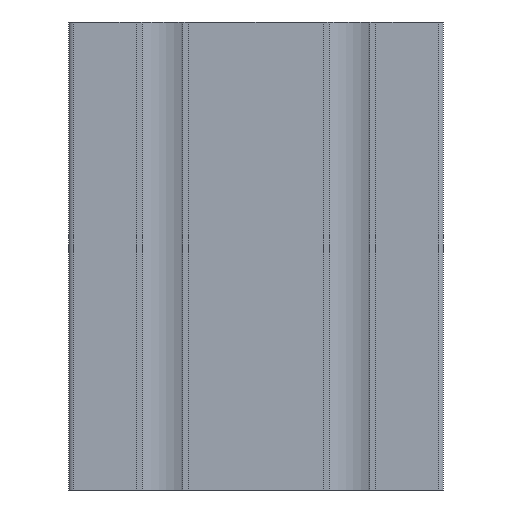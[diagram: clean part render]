
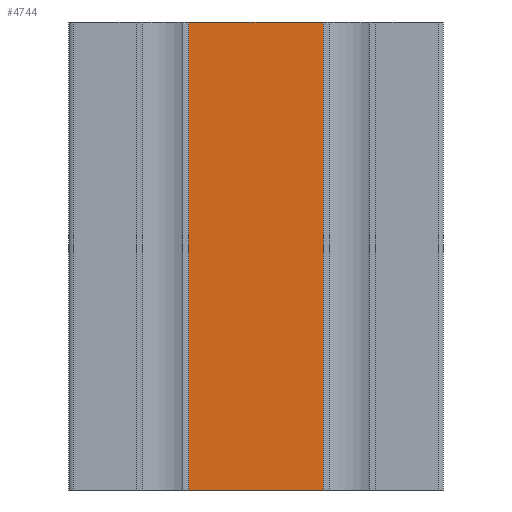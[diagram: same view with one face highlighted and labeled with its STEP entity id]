
A CAD part, front view. The second image highlights one B-rep face of the part: STEP entity #4744.
In plain terms, the highlighted planar face has unit normal (0, -1, 0).
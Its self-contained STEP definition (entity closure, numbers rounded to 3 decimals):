
#440=FACE_OUTER_BOUND('',#674,.T.);
#674=EDGE_LOOP('',(#3763,#3764,#3765,#3766));
#1174=LINE('',#7626,#1726);
#1175=LINE('',#7629,#1727);
#1176=LINE('',#7631,#1728);
#1177=LINE('',#7632,#1729);
#1726=VECTOR('',#6258,100.);
#1727=VECTOR('',#6261,28.8);
#1728=VECTOR('',#6262,28.8);
#1729=VECTOR('',#6263,100.);
#2221=VERTEX_POINT('',#7622);
#2222=VERTEX_POINT('',#7624);
#2223=VERTEX_POINT('',#7628);
#2224=VERTEX_POINT('',#7630);
#2876=EDGE_CURVE('',#2221,#2222,#1174,.T.);
#2877=EDGE_CURVE('',#2221,#2223,#1175,.T.);
#2878=EDGE_CURVE('',#2224,#2222,#1176,.T.);
#2879=EDGE_CURVE('',#2223,#2224,#1177,.T.);
#3763=ORIENTED_EDGE('',*,*,#2877,.F.);
#3764=ORIENTED_EDGE('',*,*,#2876,.T.);
#3765=ORIENTED_EDGE('',*,*,#2878,.F.);
#3766=ORIENTED_EDGE('',*,*,#2879,.F.);
#4515=PLANE('',#5114);
#4744=ADVANCED_FACE('',(#440),#4515,.T.);
#5114=AXIS2_PLACEMENT_3D('',#7627,#6259,#6260);
#6258=DIRECTION('',(0.,0.,1.));
#6259=DIRECTION('center_axis',(0.,-1.,0.));
#6260=DIRECTION('ref_axis',(1.,0.,0.));
#6261=DIRECTION('',(-1.,0.,0.));
#6262=DIRECTION('',(1.,0.,0.));
#6263=DIRECTION('',(0.,0.,1.));
#7622=CARTESIAN_POINT('',(54.42,-0.02,0.));
#7624=CARTESIAN_POINT('',(54.42,-0.02,100.));
#7626=CARTESIAN_POINT('',(54.42,-0.02,0.));
#7627=CARTESIAN_POINT('Origin',(25.62,-0.02,0.));
#7628=CARTESIAN_POINT('',(25.62,-0.02,0.));
#7629=CARTESIAN_POINT('',(54.42,-0.02,0.));
#7630=CARTESIAN_POINT('',(25.62,-0.02,100.));
#7631=CARTESIAN_POINT('',(54.42,-0.02,100.));
#7632=CARTESIAN_POINT('',(25.62,-0.02,0.));
